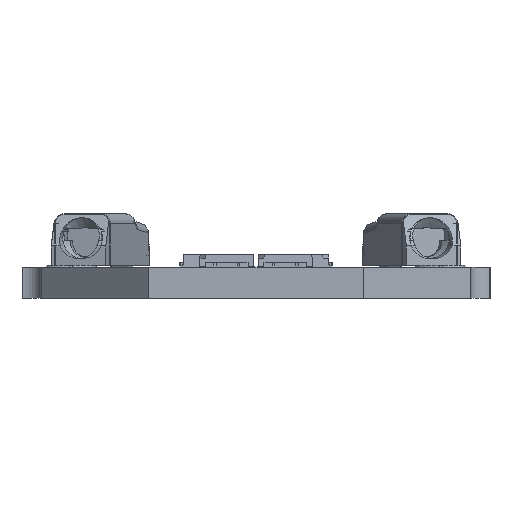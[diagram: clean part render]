
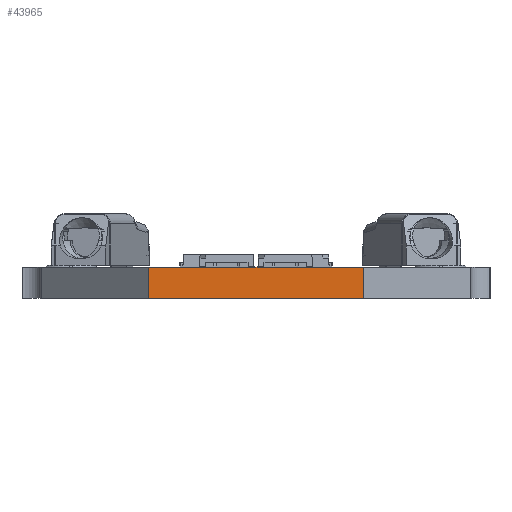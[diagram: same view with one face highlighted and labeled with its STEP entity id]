
A CAD part, left-side view. The second image highlights one B-rep face of the part: STEP entity #43965.
In plain terms, the highlighted planar face has unit normal (-1, 0, 0).
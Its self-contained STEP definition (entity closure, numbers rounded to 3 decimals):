
#1199=LINE('',#57721,#4879);
#1508=LINE('',#59580,#5188);
#1524=LINE('',#59632,#5204);
#1532=LINE('',#59650,#5212);
#4879=VECTOR('',#48717,1000.);
#5188=VECTOR('',#49228,1000.);
#5204=VECTOR('',#49282,1000.);
#5212=VECTOR('',#49310,1000.);
#9424=ORIENTED_EDGE('',*,*,#19238,.F.);
#9425=ORIENTED_EDGE('',*,*,#19272,.F.);
#9426=ORIENTED_EDGE('',*,*,#18621,.T.);
#9427=ORIENTED_EDGE('',*,*,#19264,.T.);
#18621=EDGE_CURVE('',#23570,#23569,#1199,.T.);
#19238=EDGE_CURVE('',#24186,#24187,#1508,.T.);
#19264=EDGE_CURVE('',#23569,#24187,#1524,.T.);
#19272=EDGE_CURVE('',#23570,#24186,#1532,.T.);
#23569=VERTEX_POINT('',#57720);
#23570=VERTEX_POINT('',#57722);
#24186=VERTEX_POINT('',#59579);
#24187=VERTEX_POINT('',#59581);
#27480=EDGE_LOOP('',(#9424,#9425,#9426,#9427));
#29336=FACE_BOUND('',#27480,.T.);
#31106=PLANE('',#45910);
#43965=ADVANCED_FACE('',(#29336),#31106,.T.);
#45910=AXIS2_PLACEMENT_3D('',#59649,#49308,#49309);
#48717=DIRECTION('',(0.,1.,0.));
#49228=DIRECTION('',(0.,1.,0.));
#49282=DIRECTION('',(0.,0.,-1.));
#49308=DIRECTION('',(-1.,0.,0.));
#49309=DIRECTION('',(0.,0.,1.));
#49310=DIRECTION('',(0.,0.,-1.));
#57720=CARTESIAN_POINT('',(-139.5,5.5,1.6));
#57721=CARTESIAN_POINT('',(-139.5,5.5,1.6));
#57722=CARTESIAN_POINT('',(-139.5,-5.5,1.6));
#59579=CARTESIAN_POINT('',(-139.5,-5.5,0.));
#59580=CARTESIAN_POINT('',(-139.5,5.5,0.));
#59581=CARTESIAN_POINT('',(-139.5,5.5,0.));
#59632=CARTESIAN_POINT('',(-139.5,5.5,1.6));
#59649=CARTESIAN_POINT('',(-139.5,5.5,1.6));
#59650=CARTESIAN_POINT('',(-139.5,-5.5,1.6));
